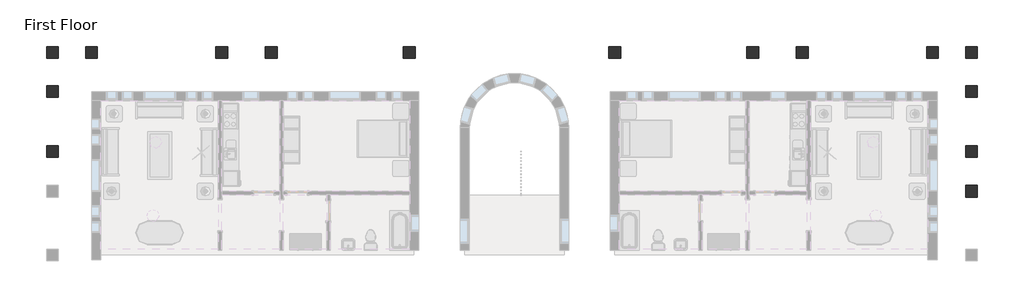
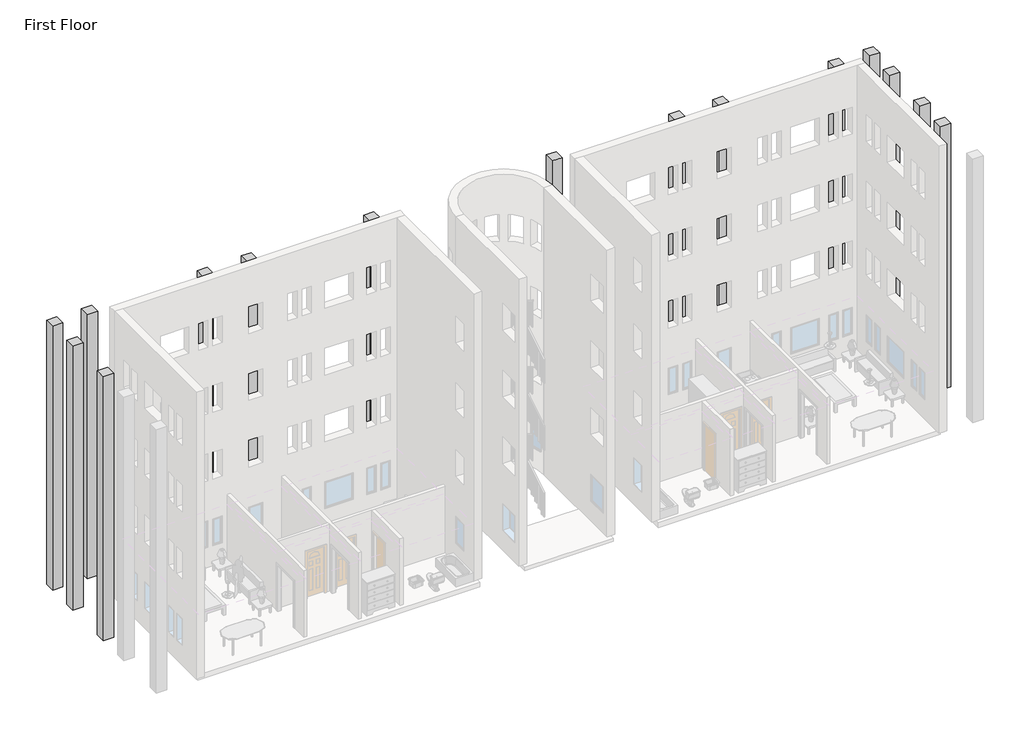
# One storey, part 18 of 22: 15 columns.
"""IFC4 building model written with IfcOpenShell, lengths in millimetres."""

import ifcopenshell
import ifcopenshell.guid

model = None  # the IFC model being written
_history = None  # IfcOwnerHistory: only IFC2X3 demands one
_inside = {}  # id of a spatial element -> (the spatial element, [elements in it])
_under = {}  # id of a project, library or spatial element -> (it, [spatial elements below it])
_declared = {}  # id of a project -> (the project, [libraries it declares])
_typed = {}  # id of a type object -> (the type object, [elements of that type])
_made_of = {}  # id of a material, layer set ... -> (it, [elements and type objects made of it])


def new_model(schema):
    """Start an empty IFC model of exactly this schema.

    Asked for "IFC4X3", IfcOpenShell would pick the latest addendum, in which some entities
    have other attributes; the version numbers below select the first issue.
    IFC2X3 requires an IfcOwnerHistory on every rooted entity: one is made here for all.
    """
    global model, _history
    if schema == "IFC4X3":
        model = ifcopenshell.file(schema_version=(4, 3, 0, 0))
    else:
        model = ifcopenshell.file(schema=schema)
    _inside.clear()
    _under.clear()
    _declared.clear()
    _typed.clear()
    _made_of.clear()
    _history = None
    if model.schema == "IFC2X3":
        org = make("IfcOrganization", Name="unknown")
        user = make(
            "IfcPersonAndOrganization",
            ThePerson=make("IfcPerson", FamilyName="unknown"),
            TheOrganization=org,
        )
        app = make(
            "IfcApplication",
            ApplicationDeveloper=org,
            Version="unknown",
            ApplicationFullName="unknown",
            ApplicationIdentifier="unknown",
        )
        _history = make(
            "IfcOwnerHistory",
            OwningUser=user,
            OwningApplication=app,
            ChangeAction="ADDED",
            CreationDate=0,
        )
    return model


def make(cls, **values):
    """One entity of the class cls with the attributes given. An attribute that is None is left unset."""
    return model.create_entity(
        cls, **{name: value for name, value in values.items() if value is not None}
    )


def rooted(cls, **values):
    """An entity with a GlobalId (a new one), such as an element, a storey or a relation."""
    return make(cls, GlobalId=ifcopenshell.guid.new(), OwnerHistory=_history, **values)


def si_unit(unit_type, name, prefix=None):
    """IfcSIUnit, for example si_unit("LENGTHUNIT", "METRE", prefix="MILLI")."""
    return make("IfcSIUnit", UnitType=unit_type, Prefix=prefix, Name=name)


def assignment(units):
    """IfcUnitAssignment: the units of a project."""
    return None if units is None else make("IfcUnitAssignment", Units=units)


def point(xyz):
    """IfcCartesianPoint."""
    return None if xyz is None else make("IfcCartesianPoint", Coordinates=xyz)


def direction(xyz):
    """IfcDirection."""
    return None if xyz is None else make("IfcDirection", DirectionRatios=xyz)


def frame(location, z_axis=None, x_axis=None):
    """IfcAxis2Placement3D, a coordinate frame: its origin and axes. An axis left out is left unset."""
    return make(
        "IfcAxis2Placement3D",
        Location=point(location),
        Axis=direction(z_axis),
        RefDirection=direction(x_axis),
    )


def origin():
    """The frame at (0, 0, 0) with its axes left unset."""
    return frame((0.0, 0.0, 0.0))


def place(relative_to, where):
    """IfcLocalPlacement: puts the frame where relative to a parent placement (None: the world)."""
    return make(
        "IfcLocalPlacement", PlacementRelTo=relative_to, RelativePlacement=where
    )


def context(
    kind, dimensions, precision=None, world=None, true_north=None, identifier=None
):
    """IfcGeometricRepresentationContext, for example the 3D "Model" context."""
    return make(
        "IfcGeometricRepresentationContext",
        ContextIdentifier=identifier,
        ContextType=kind,
        CoordinateSpaceDimension=dimensions,
        Precision=precision,
        WorldCoordinateSystem=world,
        TrueNorth=true_north,
    )


def project(units=None, contexts=None):
    """IfcProject with its units and contexts."""
    return rooted(
        "IfcProject",
        Name="project",
        RepresentationContexts=contexts,
        UnitsInContext=assignment(units),
    )


def spatial(cls, under=None, at=None, **own):
    """A site, building, storey or space (cls), placed at a placement, below another one or the project."""
    s = rooted(cls, ObjectPlacement=at, **own)
    if under is not None:
        _under.setdefault(under.id(), (under, []))[1].append(s)
    return s


def faces_of(points, faces, orient=None, outer=None):
    """IfcFace entities. A face is a list of loops; a loop is a list of indices into points, from 0.

    orient and outer hold one flag for each loop. By default every Orientation is true, the
    first loop of a face is its IfcFaceOuterBound and the others are IfcFaceBound.
    """
    made = []
    for i, loops in enumerate(faces):
        bounds = []
        for j, loop in enumerate(loops):
            is_outer = j == 0 if outer is None else outer[i][j]
            bounds.append(
                make(
                    "IfcFaceOuterBound" if is_outer else "IfcFaceBound",
                    Bound=make("IfcPolyLoop", Polygon=[points[k] for k in loop]),
                    Orientation=True if orient is None else orient[i][j],
                )
            )
        made.append(make("IfcFace", Bounds=bounds))
    return made


def faceted_brep(points, faces, orient=None, outer=None, voids=None):
    """IfcFacetedBrep: a solid bounded by flat faces; with voids (closed shells), ...WithVoids."""
    shared = [point(p) for p in points]
    hull = make("IfcClosedShell", CfsFaces=faces_of(shared, faces, orient, outer))
    if voids is None:
        return make("IfcFacetedBrep", Outer=hull)
    return make(
        "IfcFacetedBrepWithVoids",
        Outer=hull,
        Voids=[
            make(cls, CfsFaces=faces_of(shared, fs, o, b)) for cls, fs, o, b in voids
        ],
    )


def shape(context_of_items, identifier, shape_type, items):
    """IfcShapeRepresentation: the items that make up one representation, for example the "Body"."""
    return make(
        "IfcShapeRepresentation",
        ContextOfItems=context_of_items,
        RepresentationIdentifier=identifier,
        RepresentationType=shape_type,
        Items=items,
    )


def made_of(thing, what):
    """Note that an element or type object is made of a material, layer set ...; save() writes the relation."""
    if what is not None:
        _made_of.setdefault(what.id(), (what, []))[1].append(thing)
    return thing


def element(
    cls,
    number,
    at=None,
    inside=None,
    cuts=None,
    type_object=None,
    material=None,
    context=None,
    identifier="Body",
    shape_type=None,
    held_by="IfcProductDefinitionShape",
    body=None,
    shapes=None,
    **own,
):
    """One element of the class cls, such as IfcWall. Its Tag is "e" and its number.

    at: its placement. inside: the storey or other place that contains it. cuts: it is an
    opening in that element (IfcRelVoidsElement). A single representation is given by context,
    identifier, shape_type and body (its items); several are given by shapes. held_by: the class
    of the entity that holds the representations. save() writes the other relations.
    """
    e = rooted(cls, Tag="e%d" % number, ObjectPlacement=at, **own)
    if body is not None:
        shapes = [shape(context, identifier, shape_type, body)]
    if shapes is not None:
        e.Representation = make(held_by, Representations=shapes)
    if inside is not None:
        _inside.setdefault(inside.id(), (inside, []))[1].append(e)
    if cuts is not None:
        rooted(
            "IfcRelVoidsElement", RelatingBuildingElement=cuts, RelatedOpeningElement=e
        )
    if type_object is not None:
        _typed.setdefault(type_object.id(), (type_object, []))[1].append(e)
    return made_of(e, material)


def aggregate(whole, parts):
    """IfcRelAggregates: a whole, such as a stair, and the parts it consists of."""
    return rooted("IfcRelAggregates", RelatingObject=whole, RelatedObjects=parts)


def save(model, path):
    """Write the relations noted so far, then the file.

    IfcRelAggregates (storeys below a building ...), IfcRelContainedInSpatialStructure (elements
    in a storey), IfcRelDefinesByType, IfcRelAssociatesMaterial and IfcRelDeclares: one each for
    every whole, place, type object, material and project.
    """
    for whole, parts in _under.values():
        aggregate(whole, parts)
    for where, things in _inside.values():
        rooted(
            "IfcRelContainedInSpatialStructure",
            RelatedElements=things,
            RelatingStructure=where,
        )
    for kind, things in _typed.values():
        rooted("IfcRelDefinesByType", RelatedObjects=things, RelatingType=kind)
    for what, things in _made_of.values():
        rooted("IfcRelAssociatesMaterial", RelatedObjects=things, RelatingMaterial=what)
    for by, libraries in _declared.values():
        rooted("IfcRelDeclares", RelatingContext=by, RelatedDefinitions=libraries)
    model.write(path)


model = new_model("IFC4")

# Units and contexts
model_context = context("Model", 3, world=origin())
ifc_project = project(units=[si_unit("LENGTHUNIT", "METRE", prefix="MILLI")], contexts=[model_context])

# Site, building, storey
site = spatial("IfcSite", under=ifc_project)
building = spatial("IfcBuilding", under=site)
storey = spatial("IfcBuildingStorey", under=building, Name="First Floor", Elevation=0.0)

# Columns
placement = place(None, origin())
element("IfcColumn", 1, ObjectType="M_Concrete-Square-Column : 450 x 450mm", at=placement, inside=storey, context=model_context, shape_type="Brep", body=[
    faceted_brep([(-2693.3416203, 4481.1188386, 0.0), (-2693.3416203, 4031.1188386, 0.0), (-3143.3416203, 4031.1188386, 0.0), (-3143.3416203, 4481.1188386, 0.0), (-2693.3416203, 4481.1188386, 12042.0), (-2693.3416203, 4031.1188386, 12042.0), (-2693.3416203, 4031.1188386, 11742.0), (-2693.3416203, 4031.1188386, 9144.0), (-2693.3416203, 4031.1188386, 8694.0), (-2693.3416203, 4031.1188386, 6096.0), (-2693.3416203, 4031.1188386, 5646.0), (-2693.3416203, 4031.1188386, 3048.0), (-2693.3416203, 4031.1188386, 2598.0), (-2693.3416203, 4481.1188386, 2598.0), (-2693.3416203, 4481.1188386, 3048.0), (-2693.3416203, 4481.1188386, 5646.0), (-2693.3416203, 4481.1188386, 6096.0), (-2693.3416203, 4481.1188386, 8694.0), (-2693.3416203, 4481.1188386, 9144.0), (-2693.3416203, 4481.1188386, 11742.0), (-3143.3416203, 4031.1188386, 12042.0), (-3143.3416203, 4031.1188386, 11742.0), (-3143.3416203, 4031.1188386, 9144.0), (-3143.3416203, 4031.1188386, 8694.0), (-3143.3416203, 4031.1188386, 6096.0), (-3143.3416203, 4031.1188386, 5646.0), (-3143.3416203, 4031.1188386, 3048.0), (-3143.3416203, 4031.1188386, 2598.0), (-3143.3416203, 4481.1188386, 12042.0), (-3143.3416203, 4481.1188386, 11742.0), (-3143.3416203, 4481.1188386, 9144.0), (-3143.3416203, 4481.1188386, 8694.0), (-3143.3416203, 4481.1188386, 6096.0), (-3143.3416203, 4481.1188386, 5646.0), (-3143.3416203, 4481.1188386, 3048.0), (-3143.3416203, 4481.1188386, 2598.0)], [[[0, 1, 2, 3]], [[4, 5, 6, 7, 8, 9, 10, 11, 12, 1, 0, 13, 14, 15, 16, 17, 18, 19]], [[5, 20, 21, 22, 23, 24, 25, 26, 27, 2, 1, 12, 11, 10, 9, 8, 7, 6]], [[20, 28, 29, 30, 31, 32, 33, 34, 35, 3, 2, 27, 26, 25, 24, 23, 22, 21]], [[28, 4, 19, 18, 17, 16, 15, 14, 13, 0, 3, 35, 34, 33, 32, 31, 30, 29]], [[4, 28, 20, 5]]]),
])
element("IfcColumn", 2, ObjectType="M_Concrete-Square-Column : 450 x 450mm", at=placement, inside=storey, context=model_context, shape_type="Brep", body=[
    faceted_brep([(-7693.3416203, 4481.1188386, 0.0), (-7693.3416203, 4031.1188386, 0.0), (-8143.3416203, 4031.1188386, 0.0), (-8143.3416203, 4481.1188386, 0.0), (-7693.3416203, 4481.1188386, 12042.0), (-7693.3416203, 4031.1188386, 12042.0), (-7693.3416203, 4031.1188386, 11742.0), (-7693.3416203, 4031.1188386, 9144.0), (-7693.3416203, 4031.1188386, 8694.0), (-7693.3416203, 4031.1188386, 6096.0), (-7693.3416203, 4031.1188386, 5646.0), (-7693.3416203, 4031.1188386, 3048.0), (-7693.3416203, 4031.1188386, 2598.0), (-7693.3416203, 4481.1188386, 2598.0), (-7693.3416203, 4481.1188386, 3048.0), (-7693.3416203, 4481.1188386, 5646.0), (-7693.3416203, 4481.1188386, 6096.0), (-7693.3416203, 4481.1188386, 8694.0), (-7693.3416203, 4481.1188386, 9144.0), (-7693.3416203, 4481.1188386, 11742.0), (-8143.3416203, 4031.1188386, 12042.0), (-8143.3416203, 4031.1188386, 11742.0), (-8143.3416203, 4031.1188386, 9144.0), (-8143.3416203, 4031.1188386, 8694.0), (-8143.3416203, 4031.1188386, 6096.0), (-8143.3416203, 4031.1188386, 5646.0), (-8143.3416203, 4031.1188386, 3048.0), (-8143.3416203, 4031.1188386, 2598.0), (-8143.3416203, 4481.1188386, 12042.0), (-8143.3416203, 4481.1188386, 11742.0), (-8143.3416203, 4481.1188386, 9144.0), (-8143.3416203, 4481.1188386, 8694.0), (-8143.3416203, 4481.1188386, 6096.0), (-8143.3416203, 4481.1188386, 5646.0), (-8143.3416203, 4481.1188386, 3048.0), (-8143.3416203, 4481.1188386, 2598.0)], [[[0, 1, 2, 3]], [[4, 5, 6, 7, 8, 9, 10, 11, 12, 1, 0, 13, 14, 15, 16, 17, 18, 19]], [[5, 20, 21, 22, 23, 24, 25, 26, 27, 2, 1, 12, 11, 10, 9, 8, 7, 6]], [[20, 28, 29, 30, 31, 32, 33, 34, 35, 3, 2, 27, 26, 25, 24, 23, 22, 21]], [[28, 4, 19, 18, 17, 16, 15, 14, 13, 0, 3, 35, 34, 33, 32, 31, 30, 29]], [[4, 28, 20, 5]]]),
])
element("IfcColumn", 3, ObjectType="M_Concrete-Square-Column : 450 x 450mm", at=placement, inside=storey, context=model_context, shape_type="Brep", body=[
    faceted_brep([(-9593.3416203, 4481.1188386, 0.0), (-9593.3416203, 4031.1188386, 0.0), (-10043.3416203, 4031.1188386, 0.0), (-10043.3416203, 4481.1188386, 0.0), (-9593.3416203, 4481.1188386, 12042.0), (-9593.3416203, 4031.1188386, 12042.0), (-9593.3416203, 4031.1188386, 11742.0), (-9593.3416203, 4031.1188386, 9144.0), (-9593.3416203, 4031.1188386, 8694.0), (-9593.3416203, 4031.1188386, 6096.0), (-9593.3416203, 4031.1188386, 5646.0), (-9593.3416203, 4031.1188386, 3048.0), (-9593.3416203, 4031.1188386, 2598.0), (-9593.3416203, 4481.1188386, 2598.0), (-9593.3416203, 4481.1188386, 3048.0), (-9593.3416203, 4481.1188386, 5646.0), (-9593.3416203, 4481.1188386, 6096.0), (-9593.3416203, 4481.1188386, 8694.0), (-9593.3416203, 4481.1188386, 9144.0), (-9593.3416203, 4481.1188386, 11742.0), (-10043.3416203, 4031.1188386, 12042.0), (-10043.3416203, 4031.1188386, 11742.0), (-10043.3416203, 4031.1188386, 9144.0), (-10043.3416203, 4031.1188386, 8694.0), (-10043.3416203, 4031.1188386, 6096.0), (-10043.3416203, 4031.1188386, 5646.0), (-10043.3416203, 4031.1188386, 3048.0), (-10043.3416203, 4031.1188386, 2598.0), (-10043.3416203, 4481.1188386, 12042.0), (-10043.3416203, 4481.1188386, 11742.0), (-10043.3416203, 4481.1188386, 9144.0), (-10043.3416203, 4481.1188386, 8694.0), (-10043.3416203, 4481.1188386, 6096.0), (-10043.3416203, 4481.1188386, 5646.0), (-10043.3416203, 4481.1188386, 3048.0), (-10043.3416203, 4481.1188386, 2598.0)], [[[0, 1, 2, 3]], [[4, 5, 6, 7, 8, 9, 10, 11, 12, 1, 0, 13, 14, 15, 16, 17, 18, 19]], [[5, 20, 21, 22, 23, 24, 25, 26, 27, 2, 1, 12, 11, 10, 9, 8, 7, 6]], [[20, 28, 29, 30, 31, 32, 33, 34, 35, 3, 2, 27, 26, 25, 24, 23, 22, 21]], [[28, 4, 19, 18, 17, 16, 15, 14, 13, 0, 3, 35, 34, 33, 32, 31, 30, 29]], [[4, 28, 20, 5]]]),
])
element("IfcColumn", 4, ObjectType="M_Concrete-Square-Column : 450 x 450mm", at=placement, inside=storey, context=model_context, shape_type="Brep", body=[
    faceted_brep([(-14885.3416203, 4481.1188386, 0.0), (-14885.3416203, 4031.1188386, 0.0), (-15335.3416203, 4031.1188386, 0.0), (-15335.3416203, 4481.1188386, 0.0), (-14885.3416203, 4481.1188386, 12042.0), (-14885.3416203, 4031.1188386, 12042.0), (-14885.3416203, 4031.1188386, 11742.0), (-14885.3416203, 4481.1188386, 11742.0), (-15335.3416203, 4031.1188386, 12042.0), (-15335.3416203, 4031.1188386, 11742.0), (-15335.3416203, 4481.1188386, 12042.0), (-15335.3416203, 4481.1188386, 11742.0)], [[[0, 1, 2, 3]], [[4, 5, 6, 1, 0, 7]], [[5, 8, 9, 2, 1, 6]], [[8, 10, 11, 3, 2, 9]], [[10, 4, 7, 0, 3, 11]], [[4, 10, 8, 5]]]),
])
element("IfcColumn", 5, ObjectType="M_Concrete-Square-Column : 450 x 450mm", at=placement, inside=storey, context=model_context, shape_type="Brep", body=[
    faceted_brep([(-1193.3416203, 4481.1188386, 0.0), (-1193.3416203, 4031.1188386, 0.0), (-1643.3416203, 4031.1188386, 0.0), (-1643.3416203, 4481.1188386, 0.0), (-1193.3416203, 4481.1188386, 12042.0), (-1193.3416203, 4031.1188386, 12042.0), (-1193.3416203, 4031.1188386, 11742.0), (-1643.3416203, 4031.1188386, 12042.0), (-1643.3416203, 4031.1188386, 11742.0), (-1643.3416203, 4481.1188386, 12042.0), (-1643.3416203, 4481.1188386, 11742.0)], [[[0, 1, 2, 3]], [[4, 5, 6, 1, 0]], [[5, 7, 8, 2, 1, 6]], [[7, 9, 10, 3, 2, 8]], [[9, 4, 0, 3, 10]], [[4, 9, 7, 5]]]),
])
element("IfcColumn", 6, ObjectType="M_Concrete-Square-Column : 450 x 450mm", at=placement, inside=storey, context=model_context, shape_type="Brep", body=[
    faceted_brep([(-1193.3416203, 2981.1188386, 0.0), (-1193.3416203, 2531.1188386, 0.0), (-1643.3416203, 2531.1188386, 0.0), (-1643.3416203, 2981.1188386, 0.0), (-1193.3416203, 2981.1188386, 12042.0), (-1193.3416203, 2531.1188386, 12042.0), (-1193.3416203, 2531.1188386, 11742.0), (-1193.3416203, 2531.1188386, 9144.0), (-1193.3416203, 2531.1188386, 8694.0), (-1193.3416203, 2531.1188386, 6096.0), (-1193.3416203, 2531.1188386, 5646.0), (-1193.3416203, 2531.1188386, 3048.0), (-1193.3416203, 2531.1188386, 2598.0), (-1193.3416203, 2981.1188386, 2598.0), (-1193.3416203, 2981.1188386, 3048.0), (-1193.3416203, 2981.1188386, 5646.0), (-1193.3416203, 2981.1188386, 6096.0), (-1193.3416203, 2981.1188386, 8694.0), (-1193.3416203, 2981.1188386, 9144.0), (-1193.3416203, 2981.1188386, 11742.0), (-1643.3416203, 2531.1188386, 12042.0), (-1643.3416203, 2531.1188386, 11742.0), (-1643.3416203, 2531.1188386, 9144.0), (-1643.3416203, 2531.1188386, 8694.0), (-1643.3416203, 2531.1188386, 6096.0), (-1643.3416203, 2531.1188386, 5646.0), (-1643.3416203, 2531.1188386, 3048.0), (-1643.3416203, 2531.1188386, 2598.0), (-1643.3416203, 2981.1188386, 12042.0), (-1643.3416203, 2981.1188386, 11742.0), (-1643.3416203, 2981.1188386, 9144.0), (-1643.3416203, 2981.1188386, 8694.0), (-1643.3416203, 2981.1188386, 6096.0), (-1643.3416203, 2981.1188386, 5646.0), (-1643.3416203, 2981.1188386, 3048.0), (-1643.3416203, 2981.1188386, 2598.0)], [[[0, 1, 2, 3]], [[4, 5, 6, 7, 8, 9, 10, 11, 12, 1, 0, 13, 14, 15, 16, 17, 18, 19]], [[5, 20, 21, 22, 23, 24, 25, 26, 27, 2, 1, 12, 11, 10, 9, 8, 7, 6]], [[20, 28, 29, 30, 31, 32, 33, 34, 35, 3, 2, 27, 26, 25, 24, 23, 22, 21]], [[28, 4, 19, 18, 17, 16, 15, 14, 13, 0, 3, 35, 34, 33, 32, 31, 30, 29]], [[4, 28, 20, 5]]]),
])
element("IfcColumn", 7, ObjectType="M_Concrete-Square-Column : 450 x 450mm", at=placement, inside=storey, context=model_context, shape_type="Brep", body=[
    faceted_brep([(-1193.3416203, 681.1188386, 0.0), (-1193.3416203, 231.1188386, 0.0), (-1643.3416203, 231.1188386, 0.0), (-1643.3416203, 681.1188386, 0.0), (-1193.3416203, 681.1188386, 12042.0), (-1193.3416203, 231.1188386, 12042.0), (-1193.3416203, 231.1188386, 11742.0), (-1193.3416203, 231.1188386, 9144.0), (-1193.3416203, 231.1188386, 8694.0), (-1193.3416203, 231.1188386, 6096.0), (-1193.3416203, 231.1188386, 5646.0), (-1193.3416203, 231.1188386, 3048.0), (-1193.3416203, 231.1188386, 2598.0), (-1193.3416203, 681.1188386, 2598.0), (-1193.3416203, 681.1188386, 3048.0), (-1193.3416203, 681.1188386, 5646.0), (-1193.3416203, 681.1188386, 6096.0), (-1193.3416203, 681.1188386, 8694.0), (-1193.3416203, 681.1188386, 9144.0), (-1193.3416203, 681.1188386, 11742.0), (-1643.3416203, 231.1188386, 12042.0), (-1643.3416203, 231.1188386, 11742.0), (-1643.3416203, 231.1188386, 9144.0), (-1643.3416203, 231.1188386, 8694.0), (-1643.3416203, 231.1188386, 6096.0), (-1643.3416203, 231.1188386, 5646.0), (-1643.3416203, 231.1188386, 3048.0), (-1643.3416203, 231.1188386, 2598.0), (-1643.3416203, 681.1188386, 12042.0), (-1643.3416203, 681.1188386, 11742.0), (-1643.3416203, 681.1188386, 9144.0), (-1643.3416203, 681.1188386, 8694.0), (-1643.3416203, 681.1188386, 6096.0), (-1643.3416203, 681.1188386, 5646.0), (-1643.3416203, 681.1188386, 3048.0), (-1643.3416203, 681.1188386, 2598.0)], [[[0, 1, 2, 3]], [[4, 5, 6, 7, 8, 9, 10, 11, 12, 1, 0, 13, 14, 15, 16, 17, 18, 19]], [[5, 20, 21, 22, 23, 24, 25, 26, 27, 2, 1, 12, 11, 10, 9, 8, 7, 6]], [[20, 28, 29, 30, 31, 32, 33, 34, 35, 3, 2, 27, 26, 25, 24, 23, 22, 21]], [[28, 4, 19, 18, 17, 16, 15, 14, 13, 0, 3, 35, 34, 33, 32, 31, 30, 29]], [[4, 28, 20, 5]]]),
])
element("IfcColumn", 8, ObjectType="M_Concrete-Square-Column : 450 x 450mm", at=placement, inside=storey, context=model_context, shape_type="Brep", body=[
    faceted_brep([(-1193.3416203, -845.3811614, 0.0), (-1193.3416203, -1295.3811614, 0.0), (-1643.3416203, -1295.3811614, 0.0), (-1643.3416203, -845.3811614, 0.0), (-1193.3416203, -845.3811614, 12042.0), (-1193.3416203, -1295.3811614, 12042.0), (-1193.3416203, -1295.3811614, 11742.0), (-1193.3416203, -1295.3811614, 9144.0), (-1193.3416203, -1295.3811614, 8694.0), (-1193.3416203, -1295.3811614, 6096.0), (-1193.3416203, -1295.3811614, 5646.0), (-1193.3416203, -1295.3811614, 3048.0), (-1193.3416203, -1295.3811614, 2598.0), (-1193.3416203, -845.3811614, 2598.0), (-1193.3416203, -845.3811614, 3048.0), (-1193.3416203, -845.3811614, 5646.0), (-1193.3416203, -845.3811614, 6096.0), (-1193.3416203, -845.3811614, 8694.0), (-1193.3416203, -845.3811614, 9144.0), (-1193.3416203, -845.3811614, 11742.0), (-1643.3416203, -1295.3811614, 12042.0), (-1643.3416203, -1295.3811614, 11742.0), (-1643.3416203, -1295.3811614, 9144.0), (-1643.3416203, -1295.3811614, 8694.0), (-1643.3416203, -1295.3811614, 6096.0), (-1643.3416203, -1295.3811614, 5646.0), (-1643.3416203, -1295.3811614, 3048.0), (-1643.3416203, -1295.3811614, 2598.0), (-1643.3416203, -845.3811614, 12042.0), (-1643.3416203, -845.3811614, 11742.0), (-1643.3416203, -845.3811614, 9144.0), (-1643.3416203, -845.3811614, 8694.0), (-1643.3416203, -845.3811614, 6096.0), (-1643.3416203, -845.3811614, 5646.0), (-1643.3416203, -845.3811614, 3048.0), (-1643.3416203, -845.3811614, 2598.0)], [[[0, 1, 2, 3]], [[4, 5, 6, 7, 8, 9, 10, 11, 12, 1, 0, 13, 14, 15, 16, 17, 18, 19]], [[5, 20, 21, 22, 23, 24, 25, 26, 27, 2, 1, 12, 11, 10, 9, 8, 7, 6]], [[20, 28, 29, 30, 31, 32, 33, 34, 35, 3, 2, 27, 26, 25, 24, 23, 22, 21]], [[28, 4, 19, 18, 17, 16, 15, 14, 13, 0, 3, 35, 34, 33, 32, 31, 30, 29]], [[4, 28, 20, 5]]]),
])
element("IfcColumn", 9, ObjectType="M_Concrete-Square-Column : 450 x 450mm", at=placement, inside=storey, context=model_context, shape_type="Brep", body=[
    faceted_brep([(-35408.8416203, 4481.1188386, 0.0), (-34958.8416203, 4481.1188386, 0.0), (-34958.8416203, 4031.1188386, 0.0), (-35408.8416203, 4031.1188386, 0.0), (-35408.8416203, 4481.1188386, 12042.0), (-35408.8416203, 4481.1188386, 11742.0), (-35408.8416203, 4481.1188386, 9144.0), (-35408.8416203, 4481.1188386, 8694.0), (-35408.8416203, 4481.1188386, 6096.0), (-35408.8416203, 4481.1188386, 5646.0), (-35408.8416203, 4481.1188386, 3048.0), (-35408.8416203, 4481.1188386, 2598.0), (-35408.8416203, 4031.1188386, 2598.0), (-35408.8416203, 4031.1188386, 3048.0), (-35408.8416203, 4031.1188386, 5646.0), (-35408.8416203, 4031.1188386, 6096.0), (-35408.8416203, 4031.1188386, 8694.0), (-35408.8416203, 4031.1188386, 9144.0), (-35408.8416203, 4031.1188386, 11742.0), (-35408.8416203, 4031.1188386, 12042.0), (-34958.8416203, 4031.1188386, 2598.0), (-34958.8416203, 4031.1188386, 3048.0), (-34958.8416203, 4031.1188386, 5646.0), (-34958.8416203, 4031.1188386, 6096.0), (-34958.8416203, 4031.1188386, 8694.0), (-34958.8416203, 4031.1188386, 9144.0), (-34958.8416203, 4031.1188386, 11742.0), (-34958.8416203, 4031.1188386, 12042.0), (-34958.8416203, 4481.1188386, 2598.0), (-34958.8416203, 4481.1188386, 3048.0), (-34958.8416203, 4481.1188386, 5646.0), (-34958.8416203, 4481.1188386, 6096.0), (-34958.8416203, 4481.1188386, 8694.0), (-34958.8416203, 4481.1188386, 9144.0), (-34958.8416203, 4481.1188386, 11742.0), (-34958.8416203, 4481.1188386, 12042.0)], [[[0, 1, 2, 3]], [[4, 5, 6, 7, 8, 9, 10, 11, 0, 3, 12, 13, 14, 15, 16, 17, 18, 19]], [[19, 18, 17, 16, 15, 14, 13, 12, 3, 2, 20, 21, 22, 23, 24, 25, 26, 27]], [[27, 26, 25, 24, 23, 22, 21, 20, 2, 1, 28, 29, 30, 31, 32, 33, 34, 35]], [[35, 34, 33, 32, 31, 30, 29, 28, 1, 0, 11, 10, 9, 8, 7, 6, 5, 4]], [[4, 19, 27, 35]]]),
])
element("IfcColumn", 10, ObjectType="M_Concrete-Square-Column : 450 x 450mm", at=placement, inside=storey, context=model_context, shape_type="Brep", body=[
    faceted_brep([(-30408.8416203, 4481.1188386, 0.0), (-29958.8416203, 4481.1188386, 0.0), (-29958.8416203, 4031.1188386, 0.0), (-30408.8416203, 4031.1188386, 0.0), (-30408.8416203, 4481.1188386, 12042.0), (-30408.8416203, 4481.1188386, 11742.0), (-30408.8416203, 4481.1188386, 9144.0), (-30408.8416203, 4481.1188386, 8694.0), (-30408.8416203, 4481.1188386, 6096.0), (-30408.8416203, 4481.1188386, 5646.0), (-30408.8416203, 4481.1188386, 3048.0), (-30408.8416203, 4481.1188386, 2598.0), (-30408.8416203, 4031.1188386, 2598.0), (-30408.8416203, 4031.1188386, 3048.0), (-30408.8416203, 4031.1188386, 5646.0), (-30408.8416203, 4031.1188386, 6096.0), (-30408.8416203, 4031.1188386, 8694.0), (-30408.8416203, 4031.1188386, 9144.0), (-30408.8416203, 4031.1188386, 11742.0), (-30408.8416203, 4031.1188386, 12042.0), (-29958.8416203, 4031.1188386, 2598.0), (-29958.8416203, 4031.1188386, 3048.0), (-29958.8416203, 4031.1188386, 5646.0), (-29958.8416203, 4031.1188386, 6096.0), (-29958.8416203, 4031.1188386, 8694.0), (-29958.8416203, 4031.1188386, 9144.0), (-29958.8416203, 4031.1188386, 11742.0), (-29958.8416203, 4031.1188386, 12042.0), (-29958.8416203, 4481.1188386, 2598.0), (-29958.8416203, 4481.1188386, 3048.0), (-29958.8416203, 4481.1188386, 5646.0), (-29958.8416203, 4481.1188386, 6096.0), (-29958.8416203, 4481.1188386, 8694.0), (-29958.8416203, 4481.1188386, 9144.0), (-29958.8416203, 4481.1188386, 11742.0), (-29958.8416203, 4481.1188386, 12042.0)], [[[0, 1, 2, 3]], [[4, 5, 6, 7, 8, 9, 10, 11, 0, 3, 12, 13, 14, 15, 16, 17, 18, 19]], [[19, 18, 17, 16, 15, 14, 13, 12, 3, 2, 20, 21, 22, 23, 24, 25, 26, 27]], [[27, 26, 25, 24, 23, 22, 21, 20, 2, 1, 28, 29, 30, 31, 32, 33, 34, 35]], [[35, 34, 33, 32, 31, 30, 29, 28, 1, 0, 11, 10, 9, 8, 7, 6, 5, 4]], [[4, 19, 27, 35]]]),
])
element("IfcColumn", 11, ObjectType="M_Concrete-Square-Column : 450 x 450mm", at=placement, inside=storey, context=model_context, shape_type="Brep", body=[
    faceted_brep([(-28508.8416203, 4481.1188386, 0.0), (-28058.8416203, 4481.1188386, 0.0), (-28058.8416203, 4031.1188386, 0.0), (-28508.8416203, 4031.1188386, 0.0), (-28508.8416203, 4481.1188386, 12042.0), (-28508.8416203, 4481.1188386, 11742.0), (-28508.8416203, 4481.1188386, 9144.0), (-28508.8416203, 4481.1188386, 8694.0), (-28508.8416203, 4481.1188386, 6096.0), (-28508.8416203, 4481.1188386, 5646.0), (-28508.8416203, 4481.1188386, 3048.0), (-28508.8416203, 4481.1188386, 2598.0), (-28508.8416203, 4031.1188386, 2598.0), (-28508.8416203, 4031.1188386, 3048.0), (-28508.8416203, 4031.1188386, 5646.0), (-28508.8416203, 4031.1188386, 6096.0), (-28508.8416203, 4031.1188386, 8694.0), (-28508.8416203, 4031.1188386, 9144.0), (-28508.8416203, 4031.1188386, 11742.0), (-28508.8416203, 4031.1188386, 12042.0), (-28058.8416203, 4031.1188386, 2598.0), (-28058.8416203, 4031.1188386, 3048.0), (-28058.8416203, 4031.1188386, 5646.0), (-28058.8416203, 4031.1188386, 6096.0), (-28058.8416203, 4031.1188386, 8694.0), (-28058.8416203, 4031.1188386, 9144.0), (-28058.8416203, 4031.1188386, 11742.0), (-28058.8416203, 4031.1188386, 12042.0), (-28058.8416203, 4481.1188386, 2598.0), (-28058.8416203, 4481.1188386, 3048.0), (-28058.8416203, 4481.1188386, 5646.0), (-28058.8416203, 4481.1188386, 6096.0), (-28058.8416203, 4481.1188386, 8694.0), (-28058.8416203, 4481.1188386, 9144.0), (-28058.8416203, 4481.1188386, 11742.0), (-28058.8416203, 4481.1188386, 12042.0)], [[[0, 1, 2, 3]], [[4, 5, 6, 7, 8, 9, 10, 11, 0, 3, 12, 13, 14, 15, 16, 17, 18, 19]], [[19, 18, 17, 16, 15, 14, 13, 12, 3, 2, 20, 21, 22, 23, 24, 25, 26, 27]], [[27, 26, 25, 24, 23, 22, 21, 20, 2, 1, 28, 29, 30, 31, 32, 33, 34, 35]], [[35, 34, 33, 32, 31, 30, 29, 28, 1, 0, 11, 10, 9, 8, 7, 6, 5, 4]], [[4, 19, 27, 35]]]),
])
element("IfcColumn", 12, ObjectType="M_Concrete-Square-Column : 450 x 450mm", at=placement, inside=storey, context=model_context, shape_type="Brep", body=[
    faceted_brep([(-23216.8416203, 4481.1188386, 0.0), (-22766.8416203, 4481.1188386, 0.0), (-22766.8416203, 4031.1188386, 0.0), (-23216.8416203, 4031.1188386, 0.0), (-23216.8416203, 4481.1188386, 12042.0), (-23216.8416203, 4481.1188386, 11742.0), (-23216.8416203, 4031.1188386, 11742.0), (-23216.8416203, 4031.1188386, 12042.0), (-22766.8416203, 4031.1188386, 11742.0), (-22766.8416203, 4031.1188386, 12042.0), (-22766.8416203, 4481.1188386, 11742.0), (-22766.8416203, 4481.1188386, 12042.0)], [[[0, 1, 2, 3]], [[4, 5, 0, 3, 6, 7]], [[7, 6, 3, 2, 8, 9]], [[9, 8, 2, 1, 10, 11]], [[11, 10, 1, 0, 5, 4]], [[4, 7, 9, 11]]]),
])
element("IfcColumn", 13, ObjectType="M_Concrete-Square-Column : 450 x 450mm", at=placement, inside=storey, context=model_context, shape_type="Brep", body=[
    faceted_brep([(-36908.8416203, 4481.1188386, 0.0), (-36458.8416203, 4481.1188386, 0.0), (-36458.8416203, 4031.1188386, 0.0), (-36908.8416203, 4031.1188386, 0.0), (-36908.8416203, 4481.1188386, 12042.0), (-36908.8416203, 4031.1188386, 11742.0), (-36908.8416203, 4031.1188386, 12042.0), (-36458.8416203, 4031.1188386, 11742.0), (-36458.8416203, 4031.1188386, 12042.0), (-36458.8416203, 4481.1188386, 11742.0), (-36458.8416203, 4481.1188386, 12042.0)], [[[0, 1, 2, 3]], [[4, 0, 3, 5, 6]], [[6, 5, 3, 2, 7, 8]], [[8, 7, 2, 1, 9, 10]], [[10, 9, 1, 0, 4]], [[4, 6, 8, 10]]]),
])
element("IfcColumn", 14, ObjectType="M_Concrete-Square-Column : 450 x 450mm", at=placement, inside=storey, context=model_context, shape_type="Brep", body=[
    faceted_brep([(-36908.8416203, 2981.1188386, 0.0), (-36458.8416203, 2981.1188386, 0.0), (-36458.8416203, 2531.1188386, 0.0), (-36908.8416203, 2531.1188386, 0.0), (-36908.8416203, 2981.1188386, 12042.0), (-36908.8416203, 2981.1188386, 11742.0), (-36908.8416203, 2981.1188386, 9144.0), (-36908.8416203, 2981.1188386, 8694.0), (-36908.8416203, 2981.1188386, 6096.0), (-36908.8416203, 2981.1188386, 5646.0), (-36908.8416203, 2981.1188386, 3048.0), (-36908.8416203, 2981.1188386, 2598.0), (-36908.8416203, 2531.1188386, 2598.0), (-36908.8416203, 2531.1188386, 3048.0), (-36908.8416203, 2531.1188386, 5646.0), (-36908.8416203, 2531.1188386, 6096.0), (-36908.8416203, 2531.1188386, 8694.0), (-36908.8416203, 2531.1188386, 9144.0), (-36908.8416203, 2531.1188386, 11742.0), (-36908.8416203, 2531.1188386, 12042.0), (-36458.8416203, 2531.1188386, 2598.0), (-36458.8416203, 2531.1188386, 3048.0), (-36458.8416203, 2531.1188386, 5646.0), (-36458.8416203, 2531.1188386, 6096.0), (-36458.8416203, 2531.1188386, 8694.0), (-36458.8416203, 2531.1188386, 9144.0), (-36458.8416203, 2531.1188386, 11742.0), (-36458.8416203, 2531.1188386, 12042.0), (-36458.8416203, 2981.1188386, 2598.0), (-36458.8416203, 2981.1188386, 3048.0), (-36458.8416203, 2981.1188386, 5646.0), (-36458.8416203, 2981.1188386, 6096.0), (-36458.8416203, 2981.1188386, 8694.0), (-36458.8416203, 2981.1188386, 9144.0), (-36458.8416203, 2981.1188386, 11742.0), (-36458.8416203, 2981.1188386, 12042.0)], [[[0, 1, 2, 3]], [[4, 5, 6, 7, 8, 9, 10, 11, 0, 3, 12, 13, 14, 15, 16, 17, 18, 19]], [[19, 18, 17, 16, 15, 14, 13, 12, 3, 2, 20, 21, 22, 23, 24, 25, 26, 27]], [[27, 26, 25, 24, 23, 22, 21, 20, 2, 1, 28, 29, 30, 31, 32, 33, 34, 35]], [[35, 34, 33, 32, 31, 30, 29, 28, 1, 0, 11, 10, 9, 8, 7, 6, 5, 4]], [[4, 19, 27, 35]]]),
])
element("IfcColumn", 15, ObjectType="M_Concrete-Square-Column : 450 x 450mm", at=placement, inside=storey, context=model_context, shape_type="Brep", body=[
    faceted_brep([(-36908.8416203, 681.1188386, 0.0), (-36458.8416203, 681.1188386, 0.0), (-36458.8416203, 231.1188386, 0.0), (-36908.8416203, 231.1188386, 0.0), (-36908.8416203, 681.1188386, 12042.0), (-36908.8416203, 681.1188386, 11742.0), (-36908.8416203, 681.1188386, 9144.0), (-36908.8416203, 681.1188386, 8694.0), (-36908.8416203, 681.1188386, 6096.0), (-36908.8416203, 681.1188386, 5646.0), (-36908.8416203, 681.1188386, 3048.0), (-36908.8416203, 681.1188386, 2598.0), (-36908.8416203, 231.1188386, 2598.0), (-36908.8416203, 231.1188386, 3048.0), (-36908.8416203, 231.1188386, 5646.0), (-36908.8416203, 231.1188386, 6096.0), (-36908.8416203, 231.1188386, 8694.0), (-36908.8416203, 231.1188386, 9144.0), (-36908.8416203, 231.1188386, 11742.0), (-36908.8416203, 231.1188386, 12042.0), (-36458.8416203, 231.1188386, 2598.0), (-36458.8416203, 231.1188386, 3048.0), (-36458.8416203, 231.1188386, 5646.0), (-36458.8416203, 231.1188386, 6096.0), (-36458.8416203, 231.1188386, 8694.0), (-36458.8416203, 231.1188386, 9144.0), (-36458.8416203, 231.1188386, 11742.0), (-36458.8416203, 231.1188386, 12042.0), (-36458.8416203, 681.1188386, 2598.0), (-36458.8416203, 681.1188386, 3048.0), (-36458.8416203, 681.1188386, 5646.0), (-36458.8416203, 681.1188386, 6096.0), (-36458.8416203, 681.1188386, 8694.0), (-36458.8416203, 681.1188386, 9144.0), (-36458.8416203, 681.1188386, 11742.0), (-36458.8416203, 681.1188386, 12042.0)], [[[0, 1, 2, 3]], [[4, 5, 6, 7, 8, 9, 10, 11, 0, 3, 12, 13, 14, 15, 16, 17, 18, 19]], [[19, 18, 17, 16, 15, 14, 13, 12, 3, 2, 20, 21, 22, 23, 24, 25, 26, 27]], [[27, 26, 25, 24, 23, 22, 21, 20, 2, 1, 28, 29, 30, 31, 32, 33, 34, 35]], [[35, 34, 33, 32, 31, 30, 29, 28, 1, 0, 11, 10, 9, 8, 7, 6, 5, 4]], [[4, 19, 27, 35]]]),
])

save(model, "model.ifc")
